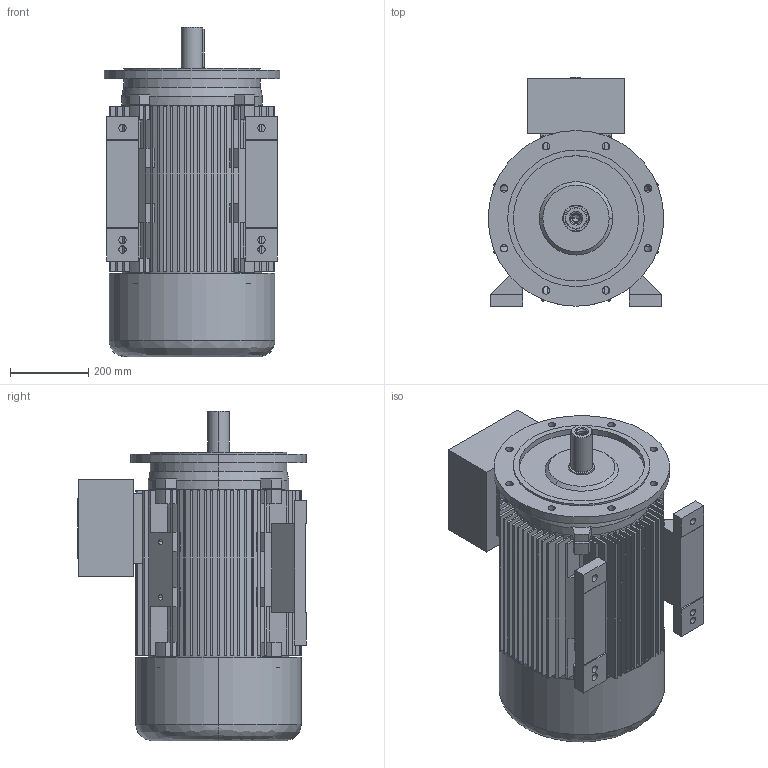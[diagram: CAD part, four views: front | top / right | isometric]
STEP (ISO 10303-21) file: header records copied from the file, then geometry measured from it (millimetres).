
FILE_DESCRIPTION (( 'STEP AP203' ), '1' );
FILE_NAME ('20.17507_C 7AT 225S&M -2 B35 Exde STANDK.STEP', '2018-05-21T06:46:01', ( '' ), ( '' ), 'SwSTEP 2.0', 'SolidWorks 2017', '' );
FILE_SCHEMA (( 'CONFIG_CONTROL_DESIGN' ));
Length unit declared in the file: millimetre
Products named in the file (1): 20.17507_C 7AT 225S&M -2 B35 Exde STANDK
Bounding box: 450 x 586 x 845 mm (x, y, z)
Volume: 38046906.1 mm3; surface area: 5437155.5 mm2
Topology: 9 solids, 9 shells, 857 faces, 2293 edges, 1505 vertices
Faces by surface type: plane 658, cylinder 148, cone 38, bspline 13
Entity records: 27327 total; most frequent: CARTESIAN_POINT 5475, ORIENTED_EDGE 4550, DIRECTION 4471, EDGE_CURVE 2275, VECTOR 1685, LINE 1685, VERTEX_POINT 1505, AXIS2_PLACEMENT_3D 1393
